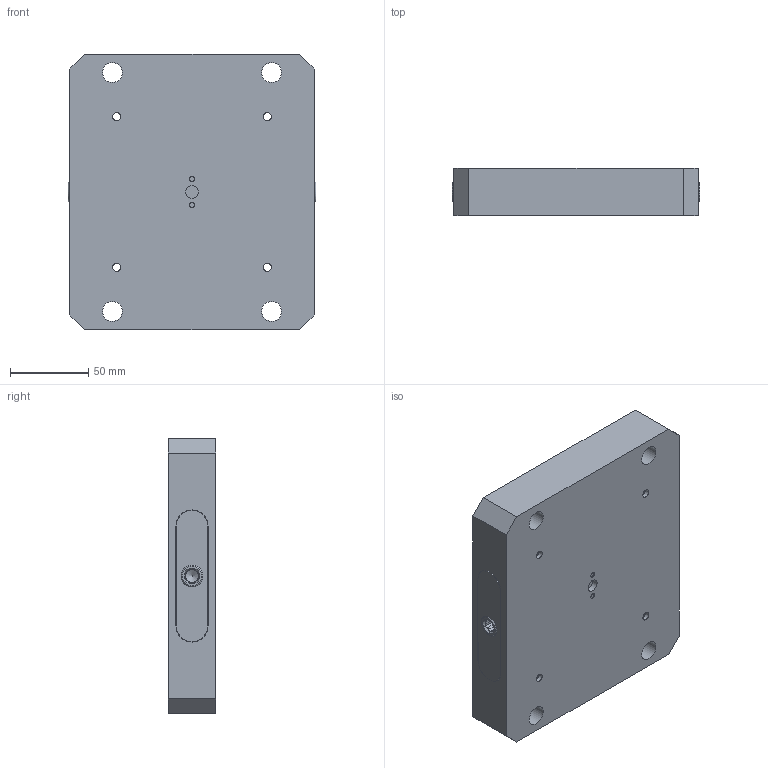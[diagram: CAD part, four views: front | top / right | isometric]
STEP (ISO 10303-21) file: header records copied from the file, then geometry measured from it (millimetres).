
FILE_DESCRIPTION (( 'STEP AP214' ), '1' );
FILE_NAME ('RL96S-67_WEBSITE.STEP', '2025-08-11T12:05:46', ( '' ), ( '' ), 'SwSTEP 2.0', 'SolidWorks 2025', '' );
FILE_SCHEMA (( 'AUTOMOTIVE_DESIGN' ));
Length unit declared in the file: inch
Products named in the file (10): D_RL96-3_WEBSITE; 9452K183-Base-O-Ring_WEBSITE; D_SB54_WEBSITE_FINISHED PART; D_RL96-167A_WEBSITE; 9452K121-Truck-O-Ring_WEBSITE; D_HW27X20.DB_WEBSITE; D_RL96-2R_WEBSITE; 9750K730_PLASTIC ROUND PLUG_WEBSITE_9750K73; RL96S-67_WEBSITE; D_RL96-2L_WEBSITE
Assembly tree (16 placements, depth 2):
  9750K730_PLASTIC ROUND PLUG_WEBSITE_9750K73
  RL96S-67_WEBSITE
    D_RL96-167A_WEBSITE
    D_HW27X20.DB_WEBSITE  x4
    D_RL96-2L_WEBSITE
    D_RL96-2R_WEBSITE
    D_RL96-3_WEBSITE
    D_SB54_WEBSITE_FINISHED PART  x2
    9452K183-Base-O-Ring_WEBSITE  x4
    9452K121-Truck-O-Ring_WEBSITE  x2
Bounding box: 158 x 30 x 176 mm (x, y, z)
Volume: 722701 mm3; surface area: 140350.4 mm2
Topology: 18 solids, 18 shells, 286 faces, 638 edges, 400 vertices
Faces by surface type: plane 169, cylinder 89, cone 16, torus 10, bspline 2
Full cylindrical faces by diameter (mm): 0.127 x2, 2.5 x2, 3.3 x2, 4 x2, 4.7 x2, 5 x2, 5.182 x6, 8.026 x1, 8.204 x2, 9 x2, 9.525 x2, 10.795 x1, 12.192 x4, 12.573 x4, 12.725 x4, 14 x2, 15.748 x2, 19.05 x6, 19.99 x1, 20 x4, 20.035 x4, 20.574 x4, 26.982 x4, 26.993 x4, 27.051 x4
Entity records: 9117 total; most frequent: CARTESIAN_POINT 3194, DIRECTION 1114, ORIENTED_EDGE 902, EDGE_CURVE 451, AXIS2_PLACEMENT_3D 451, EDGE_LOOP 376, VERTEX_POINT 325, FACE_OUTER_BOUND 302
